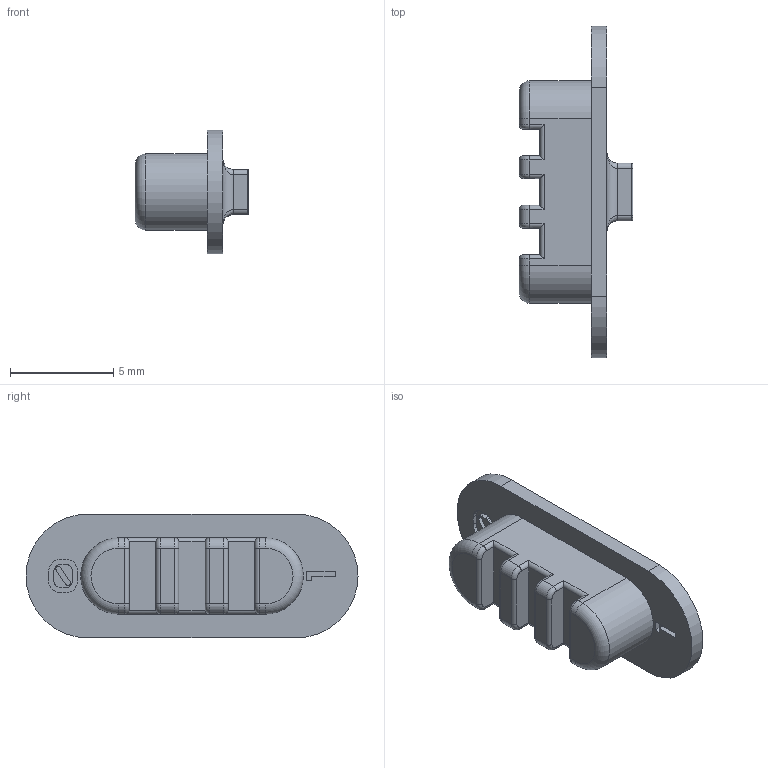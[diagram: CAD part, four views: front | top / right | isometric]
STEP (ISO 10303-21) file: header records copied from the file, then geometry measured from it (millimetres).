
FILE_DESCRIPTION(/* description */ (''),/* implementation_level */ '2;1');
FILE_NAME(/* name */ 'Exploiteers_Hacker_Pager_V107_Power_Switch_Cap_step.stp',/* time_stamp */ '2026-06-11T15:13:01-04:00',/* author */ 'SGX',/* organization */ 'Exploiteers',/* preprocessor_version */ 'ST-DEVELOPER v20.1',/* originating_system */ 'Autodesk Translation Framework v15.8.0.0',/* authorisation */ '');
FILE_SCHEMA (('AUTOMOTIVE_DESIGN { 1 0 10303 214 3 1 1 }'));
Length unit declared in the file: millimetre
Products named in the file (1): Power_Switch_Cap
Bounding box: 5.5 x 16.1 x 6 mm (x, y, z)
Volume: 186.2 mm3; surface area: 321 mm2
Topology: 1 solids, 1 shells, 195 faces, 489 edges, 298 vertices
Faces by surface type: bspline 60, cylinder 60, plane 49, torus 26
Entity records: 6643 total; most frequent: CARTESIAN_POINT 2320, ORIENTED_EDGE 970, DIRECTION 759, EDGE_CURVE 485, VERTEX_POINT 298, AXIS2_PLACEMENT_3D 262, LINE 235, VECTOR 235
